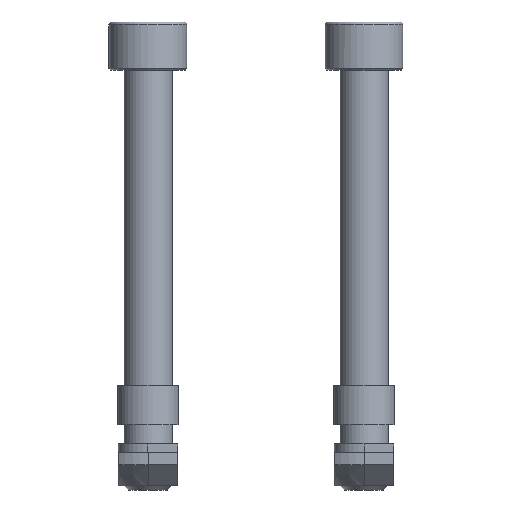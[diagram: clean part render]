
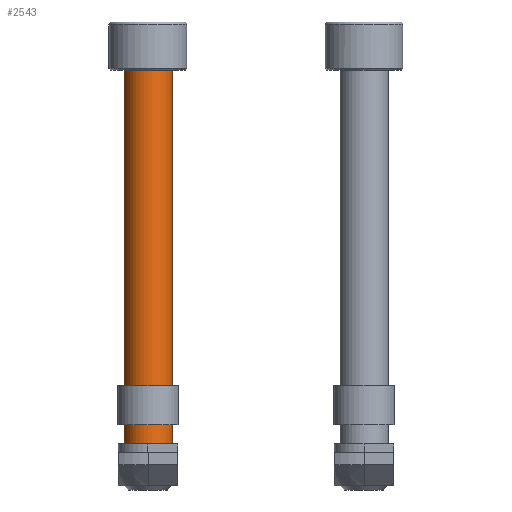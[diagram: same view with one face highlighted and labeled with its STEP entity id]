
A CAD part, front view. The second image highlights one B-rep face of the part: STEP entity #2543.
In plain terms, the highlighted cylindrical face has radius 4 mm (diameter 8 mm), a partial arc.
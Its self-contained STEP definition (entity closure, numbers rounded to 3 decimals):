
#8 = CARTESIAN_POINT ( 'NONE',  ( -4., 0., -70. ) ) ;
#86 = VERTEX_POINT ( 'NONE', #760 ) ;
#151 = ORIENTED_EDGE ( 'NONE', *, *, #204, .F. ) ;
#204 = EDGE_CURVE ( 'NONE', #1793, #2095, #2042, .T. ) ;
#233 = VECTOR ( 'NONE', #1764, 1000. ) ;
#297 = CIRCLE ( 'NONE', #2818, 4. ) ;
#474 = EDGE_LOOP ( 'NONE', ( #1627, #151, #1716, #1962 ) ) ;
#492 = DIRECTION ( 'NONE',  ( 1., 0., 0. ) ) ;
#504 = EDGE_CURVE ( 'NONE', #2095, #86, #2574, .T. ) ;
#516 = CARTESIAN_POINT ( 'NONE',  ( 0., 0., -70. ) ) ;
#531 = DIRECTION ( 'NONE',  ( 0., 0., 1. ) ) ;
#659 = CARTESIAN_POINT ( 'NONE',  ( 4., 0., -62.3 ) ) ;
#714 = VECTOR ( 'NONE', #909, 1000. ) ;
#733 = DIRECTION ( 'NONE',  ( -1., 0., 0. ) ) ;
#744 = CARTESIAN_POINT ( 'NONE',  ( 0., 0., -62.3 ) ) ;
#760 = CARTESIAN_POINT ( 'NONE',  ( -4., 0., 0. ) ) ;
#773 = EDGE_CURVE ( 'NONE', #86, #2935, #297, .T. ) ;
#909 = DIRECTION ( 'NONE',  ( 0., 0., 1. ) ) ;
#1304 = DIRECTION ( 'NONE',  ( 0., 0., 1. ) ) ;
#1627 = ORIENTED_EDGE ( 'NONE', *, *, #504, .F. ) ;
#1716 = ORIENTED_EDGE ( 'NONE', *, *, #2950, .T. ) ;
#1745 = CARTESIAN_POINT ( 'NONE',  ( 4., 0., -70. ) ) ;
#1764 = DIRECTION ( 'NONE',  ( 0., 0., 1. ) ) ;
#1793 = VERTEX_POINT ( 'NONE', #659 ) ;
#1962 = ORIENTED_EDGE ( 'NONE', *, *, #773, .F. ) ;
#2042 = CIRCLE ( 'NONE', #2217, 4. ) ;
#2095 = VERTEX_POINT ( 'NONE', #2895 ) ;
#2155 = CYLINDRICAL_SURFACE ( 'NONE', #2923, 4. ) ;
#2217 = AXIS2_PLACEMENT_3D ( 'NONE', #744, #2956, #733 ) ;
#2393 = FACE_OUTER_BOUND ( 'NONE', #474, .T. ) ;
#2496 = CARTESIAN_POINT ( 'NONE',  ( 4., 0., 0. ) ) ;
#2543 = ADVANCED_FACE ( 'NONE', ( #2393 ), #2155, .T. ) ;
#2574 = LINE ( 'NONE', #8, #714 ) ;
#2693 = DIRECTION ( 'NONE',  ( 1., 0., 0. ) ) ;
#2805 = LINE ( 'NONE', #1745, #233 ) ;
#2818 = AXIS2_PLACEMENT_3D ( 'NONE', #2902, #1304, #2693 ) ;
#2895 = CARTESIAN_POINT ( 'NONE',  ( -4., 0., -62.3 ) ) ;
#2902 = CARTESIAN_POINT ( 'NONE',  ( 0., 0., 0. ) ) ;
#2923 = AXIS2_PLACEMENT_3D ( 'NONE', #516, #531, #492 ) ;
#2935 = VERTEX_POINT ( 'NONE', #2496 ) ;
#2950 = EDGE_CURVE ( 'NONE', #1793, #2935, #2805, .T. ) ;
#2956 = DIRECTION ( 'NONE',  ( 0., 0., -1. ) ) ;
